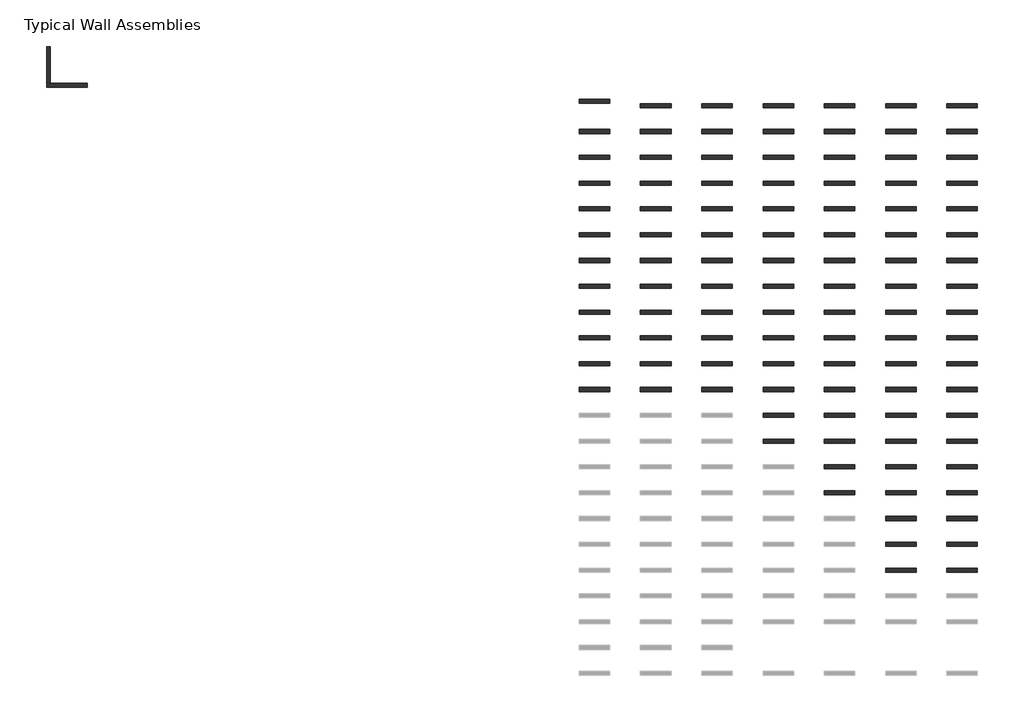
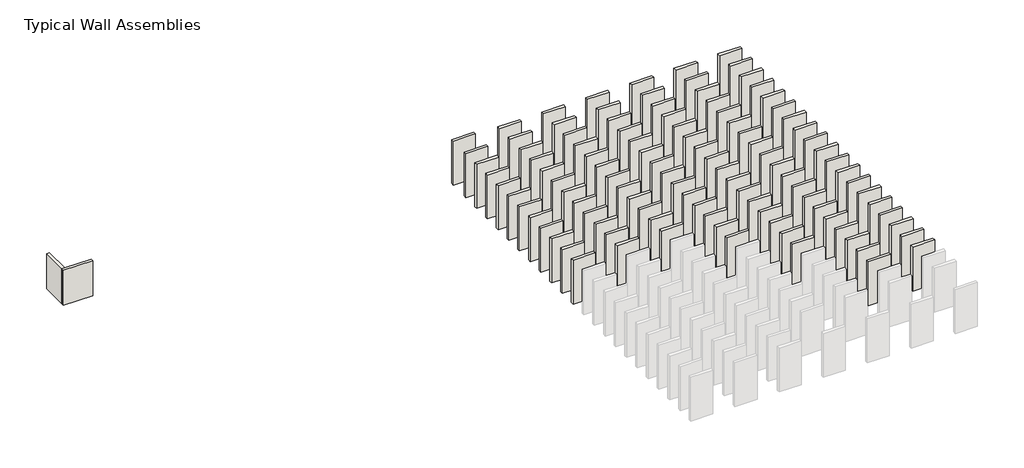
# One storey, part 2 of 2: 106 walls.
"""IFC4 building model written with IfcOpenShell, lengths in millimetres."""

from ifc_helpers import new_model, si_unit, frame, origin, place, context, project, spatial, polyline, outline, extrude, faceted_brep, element, save

model = new_model("IFC4")

# Units and contexts
model_context = context("Model", 3, world=origin())
ifc_project = project(units=[si_unit("LENGTHUNIT", "METRE", prefix="MILLI")], contexts=[model_context])

# Site, building, storey
site = spatial("IfcSite", under=ifc_project)
building = spatial("IfcBuilding", under=site)
storey = spatial("IfcBuildingStorey", under=building, Name="Typical Wall Assemblies", Elevation=6096.0)

# Walls
placement = place(None, origin())
element("IfcWall", 1, ObjectType="Resysta - Cladding-2-Channel-2 Channel_3/4inx2.75in_Aged-Teak", at=placement, inside=storey, context=model_context, shape_type="SweptSolid", body=[
    extrude(outline(polyline([(-19450.9165719, 14659.6846046), (-20898.7250935, 14659.6846046), (-20898.7250935, 14851.7721078), (-19450.9165719, 14851.7721078), (-19450.9165719, 14659.6846046)])), frame((0.0, 0.0, 6096.0), z_axis=(0.0, 0.0, 1.0), x_axis=(1.0, 0.0, 0.0)), (0.0, 0.0, 1.0), 3048.0),
])
element("IfcWall", 2, ObjectType="Resysta - Cladding-2-Channel-2 Channel_3/4inx2.75in_Anthrazit", at=placement, inside=storey, context=model_context, shape_type="SweptSolid", body=[
    extrude(outline(polyline([(-16555.2995286, 14443.3769656), (-18003.1080502, 14443.3769656), (-18003.1080502, 14635.4644687), (-16555.2995286, 14635.4644687), (-16555.2995286, 14443.3769656)])), frame((0.0, 0.0, 6096.0), z_axis=(0.0, 0.0, 1.0), x_axis=(1.0, 0.0, 0.0)), (0.0, 0.0, 1.0), 3048.0),
])
element("IfcWall", 3, ObjectType="Resysta - Cladding-2-Channel-2 Channel_3/4inx2.75in_Apple-Green", at=placement, inside=storey, context=model_context, shape_type="SweptSolid", body=[
    extrude(outline(polyline([(-13659.6824853, 14443.3769656), (-15107.4910069, 14443.3769656), (-15107.4910069, 14635.4644687), (-13659.6824853, 14635.4644687), (-13659.6824853, 14443.3769656)])), frame((0.0, 0.0, 6096.0), z_axis=(0.0, 0.0, 1.0), x_axis=(1.0, 0.0, 0.0)), (0.0, 0.0, 1.0), 3048.0),
])
element("IfcWall", 4, ObjectType="Resysta - Cladding-2-Channel-2 Channel_3/4inx2.75in_Black", at=placement, inside=storey, context=model_context, shape_type="SweptSolid", body=[
    extrude(outline(polyline([(-10764.065442, 14443.3769656), (-12211.8739636, 14443.3769656), (-12211.8739636, 14635.4644687), (-10764.065442, 14635.4644687), (-10764.065442, 14443.3769656)])), frame((0.0, 0.0, 6096.0), z_axis=(0.0, 0.0, 1.0), x_axis=(1.0, 0.0, 0.0)), (0.0, 0.0, 1.0), 3048.0),
])
element("IfcWall", 5, ObjectType="Resysta - Cladding-2-Channel-2 Channel_3/4inx2.75in_Blue", at=placement, inside=storey, context=model_context, shape_type="SweptSolid", body=[
    extrude(outline(polyline([(-7868.4483987, 14443.3769656), (-9316.2569203, 14443.3769656), (-9316.2569203, 14635.4644687), (-7868.4483987, 14635.4644687), (-7868.4483987, 14443.3769656)])), frame((0.0, 0.0, 6096.0), z_axis=(0.0, 0.0, 1.0), x_axis=(1.0, 0.0, 0.0)), (0.0, 0.0, 1.0), 3048.0),
])
element("IfcWall", 6, ObjectType="Resysta - Cladding-2-Channel-2 Channel_3/4inx2.75in_Bright-Red", at=placement, inside=storey, context=model_context, shape_type="SweptSolid", body=[
    extrude(outline(polyline([(-4972.8313554, 14443.3769656), (-6420.639877, 14443.3769656), (-6420.639877, 14635.4644687), (-4972.8313554, 14635.4644687), (-4972.8313554, 14443.3769656)])), frame((0.0, 0.0, 6096.0), z_axis=(0.0, 0.0, 1.0), x_axis=(1.0, 0.0, 0.0)), (0.0, 0.0, 1.0), 3048.0),
])
element("IfcWall", 7, ObjectType="Resysta - Cladding-2-Channel-2 Channel_3/4inx2.75in_Burma", at=placement, inside=storey, context=model_context, shape_type="SweptSolid", body=[
    extrude(outline(polyline([(-2077.2143121, 14443.3769656), (-3525.0228337, 14443.3769656), (-3525.0228337, 14635.4644687), (-2077.2143121, 14635.4644687), (-2077.2143121, 14443.3769656)])), frame((0.0, 0.0, 6096.0), z_axis=(0.0, 0.0, 1.0), x_axis=(1.0, 0.0, 0.0)), (0.0, 0.0, 1.0), 3048.0),
])
element("IfcWall", 8, ObjectType="Resysta - Cladding-2-Channel-2 Channel_3/4inx2.75in_Cape-Cod", at=placement, inside=storey, context=model_context, shape_type="SweptSolid", body=[
    extrude(outline(polyline([(-19450.9165719, 13224.1769656), (-20898.7250935, 13224.1769656), (-20898.7250935, 13416.2644687), (-19450.9165719, 13416.2644687), (-19450.9165719, 13224.1769656)])), frame((0.0, 0.0, 6096.0), z_axis=(0.0, 0.0, 1.0), x_axis=(1.0, 0.0, 0.0)), (0.0, 0.0, 1.0), 3048.0),
])
element("IfcWall", 9, ObjectType="Resysta - Cladding-2-Channel-2 Channel_3/4inx2.75in_Concrete-Grey", at=placement, inside=storey, context=model_context, shape_type="SweptSolid", body=[
    extrude(outline(polyline([(-16555.2995286, 13224.1769656), (-18003.1080502, 13224.1769656), (-18003.1080502, 13416.2644687), (-16555.2995286, 13416.2644687), (-16555.2995286, 13224.1769656)])), frame((0.0, 0.0, 6096.0), z_axis=(0.0, 0.0, 1.0), x_axis=(1.0, 0.0, 0.0)), (0.0, 0.0, 1.0), 3048.0),
])
element("IfcWall", 10, ObjectType="Resysta - Cladding-2-Channel-2 Channel_3/4inx2.75in_Dark-Burma", at=placement, inside=storey, context=model_context, shape_type="SweptSolid", body=[
    extrude(outline(polyline([(-13659.6824853, 13224.1769656), (-15107.4910069, 13224.1769656), (-15107.4910069, 13416.2644687), (-13659.6824853, 13416.2644687), (-13659.6824853, 13224.1769656)])), frame((0.0, 0.0, 6096.0), z_axis=(0.0, 0.0, 1.0), x_axis=(1.0, 0.0, 0.0)), (0.0, 0.0, 1.0), 3048.0),
])
element("IfcWall", 11, ObjectType="Resysta - Cladding-2-Channel-2 Channel_3/4inx2.75in_Dark-Grey", at=placement, inside=storey, context=model_context, shape_type="SweptSolid", body=[
    extrude(outline(polyline([(-10764.065442, 13224.1769656), (-12211.8739636, 13224.1769656), (-12211.8739636, 13416.2644687), (-10764.065442, 13416.2644687), (-10764.065442, 13224.1769656)])), frame((0.0, 0.0, 6096.0), z_axis=(0.0, 0.0, 1.0), x_axis=(1.0, 0.0, 0.0)), (0.0, 0.0, 1.0), 3048.0),
])
element("IfcWall", 12, ObjectType="Resysta - Cladding-2-Channel-2 Channel_3/4inx2.75in_Dark-Siam", at=placement, inside=storey, context=model_context, shape_type="SweptSolid", body=[
    extrude(outline(polyline([(-7868.4483987, 13224.1769656), (-9316.2569203, 13224.1769656), (-9316.2569203, 13416.2644687), (-7868.4483987, 13416.2644687), (-7868.4483987, 13224.1769656)])), frame((0.0, 0.0, 6096.0), z_axis=(0.0, 0.0, 1.0), x_axis=(1.0, 0.0, 0.0)), (0.0, 0.0, 1.0), 3048.0),
])
element("IfcWall", 13, ObjectType="Resysta - Cladding-2-Channel-2 Channel_3/4inx2.75in_Dark-Taupe", at=placement, inside=storey, context=model_context, shape_type="SweptSolid", body=[
    extrude(outline(polyline([(-4972.8313554, 13224.1769656), (-6420.639877, 13224.1769656), (-6420.639877, 13416.2644687), (-4972.8313554, 13416.2644687), (-4972.8313554, 13224.1769656)])), frame((0.0, 0.0, 6096.0), z_axis=(0.0, 0.0, 1.0), x_axis=(1.0, 0.0, 0.0)), (0.0, 0.0, 1.0), 3048.0),
])
element("IfcWall", 14, ObjectType="Resysta - Cladding-2-Channel-2 Channel_3/4inx2.75in_Green/Blue", at=placement, inside=storey, context=model_context, shape_type="SweptSolid", body=[
    extrude(outline(polyline([(-2077.2143121, 13224.1769656), (-3525.0228337, 13224.1769656), (-3525.0228337, 13416.2644687), (-2077.2143121, 13416.2644687), (-2077.2143121, 13224.1769656)])), frame((0.0, 0.0, 6096.0), z_axis=(0.0, 0.0, 1.0), x_axis=(1.0, 0.0, 0.0)), (0.0, 0.0, 1.0), 3048.0),
])
element("IfcWall", 15, ObjectType="Resysta - Cladding-2-Channel-2 Channel_3/4inx2.75in_Java-Teak", at=placement, inside=storey, context=model_context, shape_type="SweptSolid", body=[
    extrude(outline(polyline([(-19450.9165719, 12004.9769656), (-20898.7250935, 12004.9769656), (-20898.7250935, 12197.0644687), (-19450.9165719, 12197.0644687), (-19450.9165719, 12004.9769656)])), frame((0.0, 0.0, 6096.0), z_axis=(0.0, 0.0, 1.0), x_axis=(1.0, 0.0, 0.0)), (0.0, 0.0, 1.0), 3048.0),
])
element("IfcWall", 16, ObjectType="Resysta - Cladding-2-Channel-2 Channel_3/4inx2.75in_Lavender", at=placement, inside=storey, context=model_context, shape_type="SweptSolid", body=[
    extrude(outline(polyline([(-16555.2995286, 12004.9769656), (-18003.1080502, 12004.9769656), (-18003.1080502, 12197.0644687), (-16555.2995286, 12197.0644687), (-16555.2995286, 12004.9769656)])), frame((0.0, 0.0, 6096.0), z_axis=(0.0, 0.0, 1.0), x_axis=(1.0, 0.0, 0.0)), (0.0, 0.0, 1.0), 3048.0),
])
element("IfcWall", 17, ObjectType="Resysta - Cladding-2-Channel-2 Channel_3/4inx2.75in_Light-Taupe", at=placement, inside=storey, context=model_context, shape_type="SweptSolid", body=[
    extrude(outline(polyline([(-13659.6824853, 12004.9769656), (-15107.4910069, 12004.9769656), (-15107.4910069, 12197.0644687), (-13659.6824853, 12197.0644687), (-13659.6824853, 12004.9769656)])), frame((0.0, 0.0, 6096.0), z_axis=(0.0, 0.0, 1.0), x_axis=(1.0, 0.0, 0.0)), (0.0, 0.0, 1.0), 3048.0),
])
element("IfcWall", 18, ObjectType="Resysta - Cladding-2-Channel-2 Channel_3/4inx2.75in_Mahogany", at=placement, inside=storey, context=model_context, shape_type="SweptSolid", body=[
    extrude(outline(polyline([(-10764.065442, 12004.9769656), (-12211.8739636, 12004.9769656), (-12211.8739636, 12197.0644687), (-10764.065442, 12197.0644687), (-10764.065442, 12004.9769656)])), frame((0.0, 0.0, 6096.0), z_axis=(0.0, 0.0, 1.0), x_axis=(1.0, 0.0, 0.0)), (0.0, 0.0, 1.0), 3048.0),
])
element("IfcWall", 19, ObjectType="Resysta - Cladding-2-Channel-2 Channel_3/4inx2.75in_Moss-Green", at=placement, inside=storey, context=model_context, shape_type="SweptSolid", body=[
    extrude(outline(polyline([(-7868.4483987, 12004.9769656), (-9316.2569203, 12004.9769656), (-9316.2569203, 12197.0644687), (-7868.4483987, 12197.0644687), (-7868.4483987, 12004.9769656)])), frame((0.0, 0.0, 6096.0), z_axis=(0.0, 0.0, 1.0), x_axis=(1.0, 0.0, 0.0)), (0.0, 0.0, 1.0), 3048.0),
])
element("IfcWall", 20, ObjectType="Resysta - Cladding-2-Channel-2 Channel_3/4inx2.75in_Mustard-Green", at=placement, inside=storey, context=model_context, shape_type="SweptSolid", body=[
    extrude(outline(polyline([(-4972.8313554, 12004.9769656), (-6420.639877, 12004.9769656), (-6420.639877, 12197.0644687), (-4972.8313554, 12197.0644687), (-4972.8313554, 12004.9769656)])), frame((0.0, 0.0, 6096.0), z_axis=(0.0, 0.0, 1.0), x_axis=(1.0, 0.0, 0.0)), (0.0, 0.0, 1.0), 3048.0),
])
element("IfcWall", 21, ObjectType="Resysta - Cladding-2-Channel-2 Channel_3/4inx2.75in_Pale-Golden", at=placement, inside=storey, context=model_context, shape_type="SweptSolid", body=[
    extrude(outline(polyline([(-2077.2143121, 12004.9769656), (-3525.0228337, 12004.9769656), (-3525.0228337, 12197.0644687), (-2077.2143121, 12197.0644687), (-2077.2143121, 12004.9769656)])), frame((0.0, 0.0, 6096.0), z_axis=(0.0, 0.0, 1.0), x_axis=(1.0, 0.0, 0.0)), (0.0, 0.0, 1.0), 3048.0),
])
element("IfcWall", 22, ObjectType="Resysta - Cladding-2-Channel-2 Channel_3/4inx2.75in_Palisander", at=placement, inside=storey, context=model_context, shape_type="SweptSolid", body=[
    extrude(outline(polyline([(-19450.9165719, 10785.7769656), (-20898.7250935, 10785.7769656), (-20898.7250935, 10977.8644687), (-19450.9165719, 10977.8644687), (-19450.9165719, 10785.7769656)])), frame((0.0, 0.0, 6096.0), z_axis=(0.0, 0.0, 1.0), x_axis=(1.0, 0.0, 0.0)), (0.0, 0.0, 1.0), 3048.0),
])
element("IfcWall", 23, ObjectType="Resysta - Cladding-2-Channel-2 Channel_3/4inx2.75in_Red", at=placement, inside=storey, context=model_context, shape_type="SweptSolid", body=[
    extrude(outline(polyline([(-16555.2995286, 10785.7769656), (-18003.1080502, 10785.7769656), (-18003.1080502, 10977.8644687), (-16555.2995286, 10977.8644687), (-16555.2995286, 10785.7769656)])), frame((0.0, 0.0, 6096.0), z_axis=(0.0, 0.0, 1.0), x_axis=(1.0, 0.0, 0.0)), (0.0, 0.0, 1.0), 3048.0),
])
element("IfcWall", 24, ObjectType="Resysta - Cladding-2-Channel-2 Channel_3/4inx2.75in_Rust", at=placement, inside=storey, context=model_context, shape_type="SweptSolid", body=[
    extrude(outline(polyline([(-13659.6824853, 10785.7769656), (-15107.4910069, 10785.7769656), (-15107.4910069, 10977.8644687), (-13659.6824853, 10977.8644687), (-13659.6824853, 10785.7769656)])), frame((0.0, 0.0, 6096.0), z_axis=(0.0, 0.0, 1.0), x_axis=(1.0, 0.0, 0.0)), (0.0, 0.0, 1.0), 3048.0),
])
element("IfcWall", 25, ObjectType="Resysta - Cladding-2-Channel-2 Channel_3/4inx2.75in_Sage", at=placement, inside=storey, context=model_context, shape_type="SweptSolid", body=[
    extrude(outline(polyline([(-10764.065442, 10785.7769656), (-12211.8739636, 10785.7769656), (-12211.8739636, 10977.8644687), (-10764.065442, 10977.8644687), (-10764.065442, 10785.7769656)])), frame((0.0, 0.0, 6096.0), z_axis=(0.0, 0.0, 1.0), x_axis=(1.0, 0.0, 0.0)), (0.0, 0.0, 1.0), 3048.0),
])
element("IfcWall", 26, ObjectType="Resysta - Cladding-2-Channel-2 Channel_3/4inx2.75in_Siam", at=placement, inside=storey, context=model_context, shape_type="SweptSolid", body=[
    extrude(outline(polyline([(-7868.4483987, 10785.7769656), (-9316.2569203, 10785.7769656), (-9316.2569203, 10977.8644687), (-7868.4483987, 10977.8644687), (-7868.4483987, 10785.7769656)])), frame((0.0, 0.0, 6096.0), z_axis=(0.0, 0.0, 1.0), x_axis=(1.0, 0.0, 0.0)), (0.0, 0.0, 1.0), 3048.0),
])
element("IfcWall", 27, ObjectType="Resysta - Cladding-2-Channel-2 Channel_3/4inx2.75in_Teracotta", at=placement, inside=storey, context=model_context, shape_type="SweptSolid", body=[
    extrude(outline(polyline([(-4972.8313554, 10785.7769656), (-6420.639877, 10785.7769656), (-6420.639877, 10977.8644687), (-4972.8313554, 10977.8644687), (-4972.8313554, 10785.7769656)])), frame((0.0, 0.0, 6096.0), z_axis=(0.0, 0.0, 1.0), x_axis=(1.0, 0.0, 0.0)), (0.0, 0.0, 1.0), 3048.0),
])
element("IfcWall", 28, ObjectType="Resysta - Cladding-2-Channel-2 Channel_3/4inx2.75in_Walnut", at=placement, inside=storey, context=model_context, shape_type="SweptSolid", body=[
    extrude(outline(polyline([(-2077.2143121, 10785.7769656), (-3525.0228337, 10785.7769656), (-3525.0228337, 10977.8644687), (-2077.2143121, 10977.8644687), (-2077.2143121, 10785.7769656)])), frame((0.0, 0.0, 6096.0), z_axis=(0.0, 0.0, 1.0), x_axis=(1.0, 0.0, 0.0)), (0.0, 0.0, 1.0), 3048.0),
])
element("IfcWall", 29, ObjectType="Resysta - Cladding-2-Channel-2 Channel_3/4inx2.75in_White", at=placement, inside=storey, context=model_context, shape_type="SweptSolid", body=[
    extrude(outline(polyline([(-19450.9165719, 9566.5769656), (-20898.7250935, 9566.5769656), (-20898.7250935, 9758.6644687), (-19450.9165719, 9758.6644687), (-19450.9165719, 9566.5769656)])), frame((0.0, 0.0, 6096.0), z_axis=(0.0, 0.0, 1.0), x_axis=(1.0, 0.0, 0.0)), (0.0, 0.0, 1.0), 3048.0),
])
element("IfcWall", 30, ObjectType="Resysta - Cladding-2-Channel-2 Channel_3/4inx2.75in_Yellow-Teak", at=placement, inside=storey, context=model_context, shape_type="SweptSolid", body=[
    extrude(outline(polyline([(-16555.2995286, 9566.5769656), (-18003.1080502, 9566.5769656), (-18003.1080502, 9758.6644687), (-16555.2995286, 9758.6644687), (-16555.2995286, 9566.5769656)])), frame((0.0, 0.0, 6096.0), z_axis=(0.0, 0.0, 1.0), x_axis=(1.0, 0.0, 0.0)), (0.0, 0.0, 1.0), 3048.0),
])
element("IfcWall", 31, ObjectType="Resysta - Cladding-2-Channel-Thin_3/4inx2.75in_Aged-Teak", at=placement, inside=storey, context=model_context, shape_type="SweptSolid", body=[
    extrude(outline(polyline([(-13659.6824853, 9566.5769656), (-15107.4910069, 9566.5769656), (-15107.4910069, 9758.6644687), (-13659.6824853, 9758.6644687), (-13659.6824853, 9566.5769656)])), frame((0.0, 0.0, 6096.0), z_axis=(0.0, 0.0, 1.0), x_axis=(1.0, 0.0, 0.0)), (0.0, 0.0, 1.0), 3048.0),
])
element("IfcWall", 32, ObjectType="Resysta - Cladding-2-Channel-Thin_3/4inx2.75in_Anthrazit", at=placement, inside=storey, context=model_context, shape_type="SweptSolid", body=[
    extrude(outline(polyline([(-10764.065442, 9566.5769656), (-12211.8739636, 9566.5769656), (-12211.8739636, 9758.6644687), (-10764.065442, 9758.6644687), (-10764.065442, 9566.5769656)])), frame((0.0, 0.0, 6096.0), z_axis=(0.0, 0.0, 1.0), x_axis=(1.0, 0.0, 0.0)), (0.0, 0.0, 1.0), 3048.0),
])
element("IfcWall", 33, ObjectType="Resysta - Cladding-2-Channel-Thin_3/4inx2.75in_Apple-Green", at=placement, inside=storey, context=model_context, shape_type="SweptSolid", body=[
    extrude(outline(polyline([(-7868.4483987, 9566.5769656), (-9316.2569203, 9566.5769656), (-9316.2569203, 9758.6644687), (-7868.4483987, 9758.6644687), (-7868.4483987, 9566.5769656)])), frame((0.0, 0.0, 6096.0), z_axis=(0.0, 0.0, 1.0), x_axis=(1.0, 0.0, 0.0)), (0.0, 0.0, 1.0), 3048.0),
])
element("IfcWall", 34, ObjectType="Resysta - Cladding-2-Channel-Thin_3/4inx2.75in_Black", at=placement, inside=storey, context=model_context, shape_type="SweptSolid", body=[
    extrude(outline(polyline([(-4972.8313554, 9566.5769656), (-6420.639877, 9566.5769656), (-6420.639877, 9758.6644687), (-4972.8313554, 9758.6644687), (-4972.8313554, 9566.5769656)])), frame((0.0, 0.0, 6096.0), z_axis=(0.0, 0.0, 1.0), x_axis=(1.0, 0.0, 0.0)), (0.0, 0.0, 1.0), 3048.0),
])
element("IfcWall", 35, ObjectType="Resysta - Cladding-2-Channel-Thin_3/4inx2.75in_Blue", at=placement, inside=storey, context=model_context, shape_type="SweptSolid", body=[
    extrude(outline(polyline([(-2077.2143121, 9566.5769656), (-3525.0228337, 9566.5769656), (-3525.0228337, 9758.6644687), (-2077.2143121, 9758.6644687), (-2077.2143121, 9566.5769656)])), frame((0.0, 0.0, 6096.0), z_axis=(0.0, 0.0, 1.0), x_axis=(1.0, 0.0, 0.0)), (0.0, 0.0, 1.0), 3048.0),
])
element("IfcWall", 36, ObjectType="Resysta - Cladding-2-Channel-Thin_3/4inx2.75in_Bright-Red", at=placement, inside=storey, context=model_context, shape_type="SweptSolid", body=[
    extrude(outline(polyline([(-19450.9165719, 8347.3769656), (-20898.7250935, 8347.3769656), (-20898.7250935, 8539.4644687), (-19450.9165719, 8539.4644687), (-19450.9165719, 8347.3769656)])), frame((0.0, 0.0, 6096.0), z_axis=(0.0, 0.0, 1.0), x_axis=(1.0, 0.0, 0.0)), (0.0, 0.0, 1.0), 3048.0),
])
element("IfcWall", 37, ObjectType="Resysta - Cladding-2-Channel-Thin_3/4inx2.75in_Burma", at=placement, inside=storey, context=model_context, shape_type="SweptSolid", body=[
    extrude(outline(polyline([(-16555.2995286, 8347.3769656), (-18003.1080502, 8347.3769656), (-18003.1080502, 8539.4644687), (-16555.2995286, 8539.4644687), (-16555.2995286, 8347.3769656)])), frame((0.0, 0.0, 6096.0), z_axis=(0.0, 0.0, 1.0), x_axis=(1.0, 0.0, 0.0)), (0.0, 0.0, 1.0), 3048.0),
])
element("IfcWall", 38, ObjectType="Resysta - Cladding-2-Channel-Thin_3/4inx2.75in_Cape-Cod", at=placement, inside=storey, context=model_context, shape_type="SweptSolid", body=[
    extrude(outline(polyline([(-13659.6824853, 8347.3769656), (-15107.4910069, 8347.3769656), (-15107.4910069, 8539.4644687), (-13659.6824853, 8539.4644687), (-13659.6824853, 8347.3769656)])), frame((0.0, 0.0, 6096.0), z_axis=(0.0, 0.0, 1.0), x_axis=(1.0, 0.0, 0.0)), (0.0, 0.0, 1.0), 3048.0),
])
element("IfcWall", 39, ObjectType="Resysta - Cladding-2-Channel-Thin_3/4inx2.75in_Concrete-Grey", at=placement, inside=storey, context=model_context, shape_type="SweptSolid", body=[
    extrude(outline(polyline([(-10764.065442, 8347.3769656), (-12211.8739636, 8347.3769656), (-12211.8739636, 8539.4644687), (-10764.065442, 8539.4644687), (-10764.065442, 8347.3769656)])), frame((0.0, 0.0, 6096.0), z_axis=(0.0, 0.0, 1.0), x_axis=(1.0, 0.0, 0.0)), (0.0, 0.0, 1.0), 3048.0),
])
element("IfcWall", 40, ObjectType="Resysta - Cladding-2-Channel-Thin_3/4inx2.75in_Dark-Burma", at=placement, inside=storey, context=model_context, shape_type="SweptSolid", body=[
    extrude(outline(polyline([(-7868.4483987, 8347.3769656), (-9316.2569203, 8347.3769656), (-9316.2569203, 8539.4644687), (-7868.4483987, 8539.4644687), (-7868.4483987, 8347.3769656)])), frame((0.0, 0.0, 6096.0), z_axis=(0.0, 0.0, 1.0), x_axis=(1.0, 0.0, 0.0)), (0.0, 0.0, 1.0), 3048.0),
])
element("IfcWall", 41, ObjectType="Resysta - Cladding-2-Channel-Thin_3/4inx2.75in_Dark-Grey", at=placement, inside=storey, context=model_context, shape_type="SweptSolid", body=[
    extrude(outline(polyline([(-4972.8313554, 8347.3769656), (-6420.639877, 8347.3769656), (-6420.639877, 8539.4644687), (-4972.8313554, 8539.4644687), (-4972.8313554, 8347.3769656)])), frame((0.0, 0.0, 6096.0), z_axis=(0.0, 0.0, 1.0), x_axis=(1.0, 0.0, 0.0)), (0.0, 0.0, 1.0), 3048.0),
])
element("IfcWall", 42, ObjectType="Resysta - Cladding-2-Channel-Thin_3/4inx2.75in_Dark-Siam", at=placement, inside=storey, context=model_context, shape_type="SweptSolid", body=[
    extrude(outline(polyline([(-2077.2143121, 8347.3769656), (-3525.0228337, 8347.3769656), (-3525.0228337, 8539.4644687), (-2077.2143121, 8539.4644687), (-2077.2143121, 8347.3769656)])), frame((0.0, 0.0, 6096.0), z_axis=(0.0, 0.0, 1.0), x_axis=(1.0, 0.0, 0.0)), (0.0, 0.0, 1.0), 3048.0),
])
element("IfcWall", 43, ObjectType="Resysta - Cladding-2-Channel-Thin_3/4inx2.75in_Dark-Taupe", at=placement, inside=storey, context=model_context, shape_type="SweptSolid", body=[
    extrude(outline(polyline([(-19450.9165719, 7128.1769656), (-20898.7250935, 7128.1769656), (-20898.7250935, 7320.2644687), (-19450.9165719, 7320.2644687), (-19450.9165719, 7128.1769656)])), frame((0.0, 0.0, 6096.0), z_axis=(0.0, 0.0, 1.0), x_axis=(1.0, 0.0, 0.0)), (0.0, 0.0, 1.0), 3048.0),
])
element("IfcWall", 44, ObjectType="Resysta - Cladding-2-Channel-Thin_3/4inx2.75in_Green/Blue", at=placement, inside=storey, context=model_context, shape_type="SweptSolid", body=[
    extrude(outline(polyline([(-16555.2995286, 7128.1769656), (-18003.1080502, 7128.1769656), (-18003.1080502, 7320.2644687), (-16555.2995286, 7320.2644687), (-16555.2995286, 7128.1769656)])), frame((0.0, 0.0, 6096.0), z_axis=(0.0, 0.0, 1.0), x_axis=(1.0, 0.0, 0.0)), (0.0, 0.0, 1.0), 3048.0),
])
element("IfcWall", 45, ObjectType="Resysta - Cladding-2-Channel-Thin_3/4inx2.75in_Java-Teak", at=placement, inside=storey, context=model_context, shape_type="SweptSolid", body=[
    extrude(outline(polyline([(-13659.6824853, 7128.1769656), (-15107.4910069, 7128.1769656), (-15107.4910069, 7320.2644687), (-13659.6824853, 7320.2644687), (-13659.6824853, 7128.1769656)])), frame((0.0, 0.0, 6096.0), z_axis=(0.0, 0.0, 1.0), x_axis=(1.0, 0.0, 0.0)), (0.0, 0.0, 1.0), 3048.0),
])
element("IfcWall", 46, ObjectType="Resysta - Cladding-2-Channel-Thin_3/4inx2.75in_Lavender", at=placement, inside=storey, context=model_context, shape_type="SweptSolid", body=[
    extrude(outline(polyline([(-10764.065442, 7128.1769656), (-12211.8739636, 7128.1769656), (-12211.8739636, 7320.2644687), (-10764.065442, 7320.2644687), (-10764.065442, 7128.1769656)])), frame((0.0, 0.0, 6096.0), z_axis=(0.0, 0.0, 1.0), x_axis=(1.0, 0.0, 0.0)), (0.0, 0.0, 1.0), 3048.0),
])
element("IfcWall", 47, ObjectType="Resysta - Cladding-2-Channel-Thin_3/4inx2.75in_Light-Taupe", at=placement, inside=storey, context=model_context, shape_type="SweptSolid", body=[
    extrude(outline(polyline([(-7868.4483987, 7128.1769656), (-9316.2569203, 7128.1769656), (-9316.2569203, 7320.2644687), (-7868.4483987, 7320.2644687), (-7868.4483987, 7128.1769656)])), frame((0.0, 0.0, 6096.0), z_axis=(0.0, 0.0, 1.0), x_axis=(1.0, 0.0, 0.0)), (0.0, 0.0, 1.0), 3048.0),
])
element("IfcWall", 48, ObjectType="Resysta - Cladding-2-Channel-Thin_3/4inx2.75in_Mahogany", at=placement, inside=storey, context=model_context, shape_type="SweptSolid", body=[
    extrude(outline(polyline([(-4972.8313554, 7128.1769656), (-6420.639877, 7128.1769656), (-6420.639877, 7320.2644687), (-4972.8313554, 7320.2644687), (-4972.8313554, 7128.1769656)])), frame((0.0, 0.0, 6096.0), z_axis=(0.0, 0.0, 1.0), x_axis=(1.0, 0.0, 0.0)), (0.0, 0.0, 1.0), 3048.0),
])
element("IfcWall", 49, ObjectType="Resysta - Cladding-2-Channel-Thin_3/4inx2.75in_Moss-Green", at=placement, inside=storey, context=model_context, shape_type="SweptSolid", body=[
    extrude(outline(polyline([(-2077.2143121, 7128.1769656), (-3525.0228337, 7128.1769656), (-3525.0228337, 7320.2644687), (-2077.2143121, 7320.2644687), (-2077.2143121, 7128.1769656)])), frame((0.0, 0.0, 6096.0), z_axis=(0.0, 0.0, 1.0), x_axis=(1.0, 0.0, 0.0)), (0.0, 0.0, 1.0), 3048.0),
])
element("IfcWall", 50, ObjectType="Resysta - Cladding-2-Channel-Thin_3/4inx2.75in_Mustard-Green", at=placement, inside=storey, context=model_context, shape_type="SweptSolid", body=[
    extrude(outline(polyline([(-19450.9165719, 5908.9769656), (-20898.7250935, 5908.9769656), (-20898.7250935, 6101.0644687), (-19450.9165719, 6101.0644687), (-19450.9165719, 5908.9769656)])), frame((0.0, 0.0, 6096.0), z_axis=(0.0, 0.0, 1.0), x_axis=(1.0, 0.0, 0.0)), (0.0, 0.0, 1.0), 3048.0),
])
element("IfcWall", 51, ObjectType="Resysta - Cladding-2-Channel-Thin_3/4inx2.75in_Pale-Golden", at=placement, inside=storey, context=model_context, shape_type="SweptSolid", body=[
    extrude(outline(polyline([(-16555.2995286, 5908.9769656), (-18003.1080502, 5908.9769656), (-18003.1080502, 6101.0644687), (-16555.2995286, 6101.0644687), (-16555.2995286, 5908.9769656)])), frame((0.0, 0.0, 6096.0), z_axis=(0.0, 0.0, 1.0), x_axis=(1.0, 0.0, 0.0)), (0.0, 0.0, 1.0), 3048.0),
])
element("IfcWall", 52, ObjectType="Resysta - Cladding-2-Channel-Thin_3/4inx2.75in_Palisander", at=placement, inside=storey, context=model_context, shape_type="SweptSolid", body=[
    extrude(outline(polyline([(-13659.6824853, 5908.9769656), (-15107.4910069, 5908.9769656), (-15107.4910069, 6101.0644687), (-13659.6824853, 6101.0644687), (-13659.6824853, 5908.9769656)])), frame((0.0, 0.0, 6096.0), z_axis=(0.0, 0.0, 1.0), x_axis=(1.0, 0.0, 0.0)), (0.0, 0.0, 1.0), 3048.0),
])
element("IfcWall", 53, ObjectType="Resysta - Cladding-2-Channel-Thin_3/4inx2.75in_Red", at=placement, inside=storey, context=model_context, shape_type="SweptSolid", body=[
    extrude(outline(polyline([(-10764.065442, 5908.9769656), (-12211.8739636, 5908.9769656), (-12211.8739636, 6101.0644687), (-10764.065442, 6101.0644687), (-10764.065442, 5908.9769656)])), frame((0.0, 0.0, 6096.0), z_axis=(0.0, 0.0, 1.0), x_axis=(1.0, 0.0, 0.0)), (0.0, 0.0, 1.0), 3048.0),
])
element("IfcWall", 54, ObjectType="Resysta - Cladding-2-Channel-Thin_3/4inx2.75in_Rust", at=placement, inside=storey, context=model_context, shape_type="SweptSolid", body=[
    extrude(outline(polyline([(-7868.4483987, 5908.9769656), (-9316.2569203, 5908.9769656), (-9316.2569203, 6101.0644687), (-7868.4483987, 6101.0644687), (-7868.4483987, 5908.9769656)])), frame((0.0, 0.0, 6096.0), z_axis=(0.0, 0.0, 1.0), x_axis=(1.0, 0.0, 0.0)), (0.0, 0.0, 1.0), 3048.0),
])
element("IfcWall", 55, ObjectType="Resysta - Cladding-2-Channel-Thin_3/4inx2.75in_Sage", at=placement, inside=storey, context=model_context, shape_type="SweptSolid", body=[
    extrude(outline(polyline([(-4972.8313554, 5908.9769656), (-6420.639877, 5908.9769656), (-6420.639877, 6101.0644687), (-4972.8313554, 6101.0644687), (-4972.8313554, 5908.9769656)])), frame((0.0, 0.0, 6096.0), z_axis=(0.0, 0.0, 1.0), x_axis=(1.0, 0.0, 0.0)), (0.0, 0.0, 1.0), 3048.0),
])
element("IfcWall", 56, ObjectType="Resysta - Cladding-2-Channel-Thin_3/4inx2.75in_Siam", at=placement, inside=storey, context=model_context, shape_type="SweptSolid", body=[
    extrude(outline(polyline([(-2077.2143121, 5908.9769656), (-3525.0228337, 5908.9769656), (-3525.0228337, 6101.0644687), (-2077.2143121, 6101.0644687), (-2077.2143121, 5908.9769656)])), frame((0.0, 0.0, 6096.0), z_axis=(0.0, 0.0, 1.0), x_axis=(1.0, 0.0, 0.0)), (0.0, 0.0, 1.0), 3048.0),
])
element("IfcWall", 57, ObjectType="Resysta - Cladding-2-Channel-Thin_3/4inx2.75in_Teracotta", at=placement, inside=storey, context=model_context, shape_type="SweptSolid", body=[
    extrude(outline(polyline([(-19450.9165719, 4689.7769656), (-20898.7250935, 4689.7769656), (-20898.7250935, 4881.8644687), (-19450.9165719, 4881.8644687), (-19450.9165719, 4689.7769656)])), frame((0.0, 0.0, 6096.0), z_axis=(0.0, 0.0, 1.0), x_axis=(1.0, 0.0, 0.0)), (0.0, 0.0, 1.0), 3048.0),
])
element("IfcWall", 58, ObjectType="Resysta - Cladding-2-Channel-Thin_3/4inx2.75in_Walnut", at=placement, inside=storey, context=model_context, shape_type="SweptSolid", body=[
    extrude(outline(polyline([(-16555.2995286, 4689.7769656), (-18003.1080502, 4689.7769656), (-18003.1080502, 4881.8644687), (-16555.2995286, 4881.8644687), (-16555.2995286, 4689.7769656)])), frame((0.0, 0.0, 6096.0), z_axis=(0.0, 0.0, 1.0), x_axis=(1.0, 0.0, 0.0)), (0.0, 0.0, 1.0), 3048.0),
])
element("IfcWall", 59, ObjectType="Resysta - Cladding-2-Channel-Thin_3/4inx2.75in_White", at=placement, inside=storey, context=model_context, shape_type="SweptSolid", body=[
    extrude(outline(polyline([(-13659.6824853, 4689.7769656), (-15107.4910069, 4689.7769656), (-15107.4910069, 4881.8644687), (-13659.6824853, 4881.8644687), (-13659.6824853, 4689.7769656)])), frame((0.0, 0.0, 6096.0), z_axis=(0.0, 0.0, 1.0), x_axis=(1.0, 0.0, 0.0)), (0.0, 0.0, 1.0), 3048.0),
])
element("IfcWall", 60, ObjectType="Resysta - Cladding-2-Channel-Thin_3/4inx2.75in_Yellow-Teak", at=placement, inside=storey, context=model_context, shape_type="SweptSolid", body=[
    extrude(outline(polyline([(-10764.065442, 4689.7769656), (-12211.8739636, 4689.7769656), (-12211.8739636, 4881.8644687), (-10764.065442, 4881.8644687), (-10764.065442, 4689.7769656)])), frame((0.0, 0.0, 6096.0), z_axis=(0.0, 0.0, 1.0), x_axis=(1.0, 0.0, 0.0)), (0.0, 0.0, 1.0), 3048.0),
])
element("IfcWall", 61, ObjectType="Resysta - Cladding-3-Channel-Thin_3/4inx2.75in_Aged-Teak", at=placement, inside=storey, context=model_context, shape_type="SweptSolid", body=[
    extrude(outline(polyline([(-7868.4483987, 4689.7769656), (-9316.2569203, 4689.7769656), (-9316.2569203, 4881.8644687), (-7868.4483987, 4881.8644687), (-7868.4483987, 4689.7769656)])), frame((0.0, 0.0, 6096.0), z_axis=(0.0, 0.0, 1.0), x_axis=(1.0, 0.0, 0.0)), (0.0, 0.0, 1.0), 3048.0),
])
element("IfcWall", 62, ObjectType="Resysta - Cladding-3-Channel-Thin_3/4inx2.75in_Anthrazit", at=placement, inside=storey, context=model_context, shape_type="SweptSolid", body=[
    extrude(outline(polyline([(-4972.8313554, 4689.7769656), (-6420.639877, 4689.7769656), (-6420.639877, 4881.8644687), (-4972.8313554, 4881.8644687), (-4972.8313554, 4689.7769656)])), frame((0.0, 0.0, 6096.0), z_axis=(0.0, 0.0, 1.0), x_axis=(1.0, 0.0, 0.0)), (0.0, 0.0, 1.0), 3048.0),
])
element("IfcWall", 63, ObjectType="Resysta - Cladding-3-Channel-Thin_3/4inx2.75in_Apple-Green", at=placement, inside=storey, context=model_context, shape_type="SweptSolid", body=[
    extrude(outline(polyline([(-2077.2143121, 4689.7769656), (-3525.0228337, 4689.7769656), (-3525.0228337, 4881.8644687), (-2077.2143121, 4881.8644687), (-2077.2143121, 4689.7769656)])), frame((0.0, 0.0, 6096.0), z_axis=(0.0, 0.0, 1.0), x_axis=(1.0, 0.0, 0.0)), (0.0, 0.0, 1.0), 3048.0),
])
element("IfcWall", 64, ObjectType="Resysta - Cladding-3-Channel-Thin_3/4inx2.75in_Black", at=placement, inside=storey, context=model_context, shape_type="SweptSolid", body=[
    extrude(outline(polyline([(-19450.9165719, 3470.5769656), (-20898.7250935, 3470.5769656), (-20898.7250935, 3662.6644687), (-19450.9165719, 3662.6644687), (-19450.9165719, 3470.5769656)])), frame((0.0, 0.0, 6096.0), z_axis=(0.0, 0.0, 1.0), x_axis=(1.0, 0.0, 0.0)), (0.0, 0.0, 1.0), 3048.0),
])
element("IfcWall", 65, ObjectType="Resysta - Cladding-3-Channel-Thin_3/4inx2.75in_Blue", at=placement, inside=storey, context=model_context, shape_type="SweptSolid", body=[
    extrude(outline(polyline([(-16555.2995286, 3470.5769656), (-18003.1080502, 3470.5769656), (-18003.1080502, 3662.6644687), (-16555.2995286, 3662.6644687), (-16555.2995286, 3470.5769656)])), frame((0.0, 0.0, 6096.0), z_axis=(0.0, 0.0, 1.0), x_axis=(1.0, 0.0, 0.0)), (0.0, 0.0, 1.0), 3048.0),
])
element("IfcWall", 66, ObjectType="Resysta - Cladding-3-Channel-Thin_3/4inx2.75in_Bright-Red", at=placement, inside=storey, context=model_context, shape_type="SweptSolid", body=[
    extrude(outline(polyline([(-13659.6824853, 3470.5769656), (-15107.4910069, 3470.5769656), (-15107.4910069, 3662.6644687), (-13659.6824853, 3662.6644687), (-13659.6824853, 3470.5769656)])), frame((0.0, 0.0, 6096.0), z_axis=(0.0, 0.0, 1.0), x_axis=(1.0, 0.0, 0.0)), (0.0, 0.0, 1.0), 3048.0),
])
element("IfcWall", 67, ObjectType="Resysta - Cladding-3-Channel-Thin_3/4inx2.75in_Burma", at=placement, inside=storey, context=model_context, shape_type="SweptSolid", body=[
    extrude(outline(polyline([(-10764.065442, 3470.5769656), (-12211.8739636, 3470.5769656), (-12211.8739636, 3662.6644687), (-10764.065442, 3662.6644687), (-10764.065442, 3470.5769656)])), frame((0.0, 0.0, 6096.0), z_axis=(0.0, 0.0, 1.0), x_axis=(1.0, 0.0, 0.0)), (0.0, 0.0, 1.0), 3048.0),
])
element("IfcWall", 68, ObjectType="Resysta - Cladding-3-Channel-Thin_3/4inx2.75in_Cape-Cod", at=placement, inside=storey, context=model_context, shape_type="SweptSolid", body=[
    extrude(outline(polyline([(-7868.4483987, 3470.5769656), (-9316.2569203, 3470.5769656), (-9316.2569203, 3662.6644687), (-7868.4483987, 3662.6644687), (-7868.4483987, 3470.5769656)])), frame((0.0, 0.0, 6096.0), z_axis=(0.0, 0.0, 1.0), x_axis=(1.0, 0.0, 0.0)), (0.0, 0.0, 1.0), 3048.0),
])
element("IfcWall", 69, ObjectType="Resysta - Cladding-3-Channel-Thin_3/4inx2.75in_Concrete-Grey", at=placement, inside=storey, context=model_context, shape_type="SweptSolid", body=[
    extrude(outline(polyline([(-4972.8313554, 3470.5769656), (-6420.639877, 3470.5769656), (-6420.639877, 3662.6644687), (-4972.8313554, 3662.6644687), (-4972.8313554, 3470.5769656)])), frame((0.0, 0.0, 6096.0), z_axis=(0.0, 0.0, 1.0), x_axis=(1.0, 0.0, 0.0)), (0.0, 0.0, 1.0), 3048.0),
])
element("IfcWall", 70, ObjectType="Resysta - Cladding-3-Channel-Thin_3/4inx2.75in_Dark-Burma", at=placement, inside=storey, context=model_context, shape_type="SweptSolid", body=[
    extrude(outline(polyline([(-2077.2143121, 3470.5769656), (-3525.0228337, 3470.5769656), (-3525.0228337, 3662.6644687), (-2077.2143121, 3662.6644687), (-2077.2143121, 3470.5769656)])), frame((0.0, 0.0, 6096.0), z_axis=(0.0, 0.0, 1.0), x_axis=(1.0, 0.0, 0.0)), (0.0, 0.0, 1.0), 3048.0),
])
element("IfcWall", 71, ObjectType="Resysta - Cladding-3-Channel-Thin_3/4inx2.75in_Dark-Grey", at=placement, inside=storey, context=model_context, shape_type="SweptSolid", body=[
    extrude(outline(polyline([(-19450.9165719, 2251.3769656), (-20898.7250935, 2251.3769656), (-20898.7250935, 2443.4644687), (-19450.9165719, 2443.4644687), (-19450.9165719, 2251.3769656)])), frame((0.0, 0.0, 6096.0), z_axis=(0.0, 0.0, 1.0), x_axis=(1.0, 0.0, 0.0)), (0.0, 0.0, 1.0), 3048.0),
])
element("IfcWall", 72, ObjectType="Resysta - Cladding-3-Channel-Thin_3/4inx2.75in_Dark-Siam", at=placement, inside=storey, context=model_context, shape_type="SweptSolid", body=[
    extrude(outline(polyline([(-16555.2995286, 2251.3769656), (-18003.1080502, 2251.3769656), (-18003.1080502, 2443.4644687), (-16555.2995286, 2443.4644687), (-16555.2995286, 2251.3769656)])), frame((0.0, 0.0, 6096.0), z_axis=(0.0, 0.0, 1.0), x_axis=(1.0, 0.0, 0.0)), (0.0, 0.0, 1.0), 3048.0),
])
element("IfcWall", 73, ObjectType="Resysta - Cladding-3-Channel-Thin_3/4inx2.75in_Dark-Taupe", at=placement, inside=storey, context=model_context, shape_type="SweptSolid", body=[
    extrude(outline(polyline([(-13659.6824853, 2251.3769656), (-15107.4910069, 2251.3769656), (-15107.4910069, 2443.4644687), (-13659.6824853, 2443.4644687), (-13659.6824853, 2251.3769656)])), frame((0.0, 0.0, 6096.0), z_axis=(0.0, 0.0, 1.0), x_axis=(1.0, 0.0, 0.0)), (0.0, 0.0, 1.0), 3048.0),
])
element("IfcWall", 74, ObjectType="Resysta - Cladding-3-Channel-Thin_3/4inx2.75in_Green/Blue", at=placement, inside=storey, context=model_context, shape_type="SweptSolid", body=[
    extrude(outline(polyline([(-10764.065442, 2251.3769656), (-12211.8739636, 2251.3769656), (-12211.8739636, 2443.4644687), (-10764.065442, 2443.4644687), (-10764.065442, 2251.3769656)])), frame((0.0, 0.0, 6096.0), z_axis=(0.0, 0.0, 1.0), x_axis=(1.0, 0.0, 0.0)), (0.0, 0.0, 1.0), 3048.0),
])
element("IfcWall", 75, ObjectType="Resysta - Cladding-3-Channel-Thin_3/4inx2.75in_Java-Teak", at=placement, inside=storey, context=model_context, shape_type="SweptSolid", body=[
    extrude(outline(polyline([(-7868.4483987, 2251.3769656), (-9316.2569203, 2251.3769656), (-9316.2569203, 2443.4644687), (-7868.4483987, 2443.4644687), (-7868.4483987, 2251.3769656)])), frame((0.0, 0.0, 6096.0), z_axis=(0.0, 0.0, 1.0), x_axis=(1.0, 0.0, 0.0)), (0.0, 0.0, 1.0), 3048.0),
])
element("IfcWall", 76, ObjectType="Resysta - Cladding-3-Channel-Thin_3/4inx2.75in_Lavender", at=placement, inside=storey, context=model_context, shape_type="SweptSolid", body=[
    extrude(outline(polyline([(-4972.8313554, 2251.3769656), (-6420.639877, 2251.3769656), (-6420.639877, 2443.4644687), (-4972.8313554, 2443.4644687), (-4972.8313554, 2251.3769656)])), frame((0.0, 0.0, 6096.0), z_axis=(0.0, 0.0, 1.0), x_axis=(1.0, 0.0, 0.0)), (0.0, 0.0, 1.0), 3048.0),
])
element("IfcWall", 77, ObjectType="Resysta - Cladding-3-Channel-Thin_3/4inx2.75in_Light-Taupe", at=placement, inside=storey, context=model_context, shape_type="SweptSolid", body=[
    extrude(outline(polyline([(-2077.2143121, 2251.3769656), (-3525.0228337, 2251.3769656), (-3525.0228337, 2443.4644687), (-2077.2143121, 2443.4644687), (-2077.2143121, 2251.3769656)])), frame((0.0, 0.0, 6096.0), z_axis=(0.0, 0.0, 1.0), x_axis=(1.0, 0.0, 0.0)), (0.0, 0.0, 1.0), 3048.0),
])
element("IfcWall", 78, ObjectType="Resysta - Cladding-3-Channel-Thin_3/4inx2.75in_Mahogany", at=placement, inside=storey, context=model_context, shape_type="SweptSolid", body=[
    extrude(outline(polyline([(-19450.9165719, 1032.1769656), (-20898.7250935, 1032.1769656), (-20898.7250935, 1224.2644687), (-19450.9165719, 1224.2644687), (-19450.9165719, 1032.1769656)])), frame((0.0, 0.0, 6096.0), z_axis=(0.0, 0.0, 1.0), x_axis=(1.0, 0.0, 0.0)), (0.0, 0.0, 1.0), 3048.0),
])
element("IfcWall", 79, ObjectType="Resysta - Cladding-3-Channel-Thin_3/4inx2.75in_Moss-Green", at=placement, inside=storey, context=model_context, shape_type="SweptSolid", body=[
    extrude(outline(polyline([(-16555.2995286, 1032.1769656), (-18003.1080502, 1032.1769656), (-18003.1080502, 1224.2644687), (-16555.2995286, 1224.2644687), (-16555.2995286, 1032.1769656)])), frame((0.0, 0.0, 6096.0), z_axis=(0.0, 0.0, 1.0), x_axis=(1.0, 0.0, 0.0)), (0.0, 0.0, 1.0), 3048.0),
])
element("IfcWall", 80, ObjectType="Resysta - Cladding-3-Channel-Thin_3/4inx2.75in_Mustard-Green", at=placement, inside=storey, context=model_context, shape_type="SweptSolid", body=[
    extrude(outline(polyline([(-13659.6824853, 1032.1769656), (-15107.4910069, 1032.1769656), (-15107.4910069, 1224.2644687), (-13659.6824853, 1224.2644687), (-13659.6824853, 1032.1769656)])), frame((0.0, 0.0, 6096.0), z_axis=(0.0, 0.0, 1.0), x_axis=(1.0, 0.0, 0.0)), (0.0, 0.0, 1.0), 3048.0),
])
element("IfcWall", 81, ObjectType="Resysta - Cladding-3-Channel-Thin_3/4inx2.75in_Pale-Golden", at=placement, inside=storey, context=model_context, shape_type="SweptSolid", body=[
    extrude(outline(polyline([(-10764.065442, 1032.1769656), (-12211.8739636, 1032.1769656), (-12211.8739636, 1224.2644687), (-10764.065442, 1224.2644687), (-10764.065442, 1032.1769656)])), frame((0.0, 0.0, 6096.0), z_axis=(0.0, 0.0, 1.0), x_axis=(1.0, 0.0, 0.0)), (0.0, 0.0, 1.0), 3048.0),
])
element("IfcWall", 82, ObjectType="Resysta - Cladding-3-Channel-Thin_3/4inx2.75in_Palisander", at=placement, inside=storey, context=model_context, shape_type="SweptSolid", body=[
    extrude(outline(polyline([(-7868.4483987, 1032.1769656), (-9316.2569203, 1032.1769656), (-9316.2569203, 1224.2644687), (-7868.4483987, 1224.2644687), (-7868.4483987, 1032.1769656)])), frame((0.0, 0.0, 6096.0), z_axis=(0.0, 0.0, 1.0), x_axis=(1.0, 0.0, 0.0)), (0.0, 0.0, 1.0), 3048.0),
])
element("IfcWall", 83, ObjectType="Resysta - Cladding-3-Channel-Thin_3/4inx2.75in_Red", at=placement, inside=storey, context=model_context, shape_type="SweptSolid", body=[
    extrude(outline(polyline([(-4972.8313554, 1032.1769656), (-6420.639877, 1032.1769656), (-6420.639877, 1224.2644687), (-4972.8313554, 1224.2644687), (-4972.8313554, 1032.1769656)])), frame((0.0, 0.0, 6096.0), z_axis=(0.0, 0.0, 1.0), x_axis=(1.0, 0.0, 0.0)), (0.0, 0.0, 1.0), 3048.0),
])
element("IfcWall", 84, ObjectType="Resysta - Cladding-3-Channel-Thin_3/4inx2.75in_Rust", at=placement, inside=storey, context=model_context, shape_type="SweptSolid", body=[
    extrude(outline(polyline([(-2077.2143121, 1032.1769656), (-3525.0228337, 1032.1769656), (-3525.0228337, 1224.2644687), (-2077.2143121, 1224.2644687), (-2077.2143121, 1032.1769656)])), frame((0.0, 0.0, 6096.0), z_axis=(0.0, 0.0, 1.0), x_axis=(1.0, 0.0, 0.0)), (0.0, 0.0, 1.0), 3048.0),
])
element("IfcWall", 85, ObjectType="Resysta - Cladding-3-Channel-Thin_3/4inx2.75in_Walnut", at=placement, inside=storey, context=model_context, shape_type="SweptSolid", body=[
    extrude(outline(polyline([(-10764.065442, -187.0230344), (-12211.8739636, -187.0230344), (-12211.8739636, 5.0644687), (-10764.065442, 5.0644687), (-10764.065442, -187.0230344)])), frame((0.0, 0.0, 6096.0), z_axis=(0.0, 0.0, 1.0), x_axis=(1.0, 0.0, 0.0)), (0.0, 0.0, 1.0), 3048.0),
])
element("IfcWall", 86, ObjectType="Resysta - Cladding-3-Channel-Thin_3/4inx2.75in_White", at=placement, inside=storey, context=model_context, shape_type="SweptSolid", body=[
    extrude(outline(polyline([(-7868.4483987, -187.0230344), (-9316.2569203, -187.0230344), (-9316.2569203, 5.0644687), (-7868.4483987, 5.0644687), (-7868.4483987, -187.0230344)])), frame((0.0, 0.0, 6096.0), z_axis=(0.0, 0.0, 1.0), x_axis=(1.0, 0.0, 0.0)), (0.0, 0.0, 1.0), 3048.0),
])
element("IfcWall", 87, ObjectType="Resysta - Cladding-3-Channel-Thin_3/4inx2.75in_Yellow-Teak", at=placement, inside=storey, context=model_context, shape_type="SweptSolid", body=[
    extrude(outline(polyline([(-4972.8313554, -187.0230344), (-6420.639877, -187.0230344), (-6420.639877, 5.0644687), (-4972.8313554, 5.0644687), (-4972.8313554, -187.0230344)])), frame((0.0, 0.0, 6096.0), z_axis=(0.0, 0.0, 1.0), x_axis=(1.0, 0.0, 0.0)), (0.0, 0.0, 1.0), 3048.0),
])
element("IfcWall", 88, ObjectType="Resysta - Cladding-4-Channel-Thin_3/4inx5.5in_Aged-Teak", at=placement, inside=storey, context=model_context, shape_type="SweptSolid", body=[
    extrude(outline(polyline([(-2077.2143121, -187.0230344), (-3525.0228337, -187.0230344), (-3525.0228337, 5.0644687), (-2077.2143121, 5.0644687), (-2077.2143121, -187.0230344)])), frame((0.0, 0.0, 6096.0), z_axis=(0.0, 0.0, 1.0), x_axis=(1.0, 0.0, 0.0)), (0.0, 0.0, 1.0), 3048.0),
])
element("IfcWall", 89, ObjectType="Resysta - Cladding-4-Channel-Thin_3/4inx5.5in_Blue", at=placement, inside=storey, context=model_context, shape_type="SweptSolid", body=[
    extrude(outline(polyline([(-10764.065442, -1406.2230344), (-12211.8739636, -1406.2230344), (-12211.8739636, -1214.1355313), (-10764.065442, -1214.1355313), (-10764.065442, -1406.2230344)])), frame((0.0, 0.0, 6096.0), z_axis=(0.0, 0.0, 1.0), x_axis=(1.0, 0.0, 0.0)), (0.0, 0.0, 1.0), 3048.0),
])
element("IfcWall", 90, ObjectType="Resysta - Cladding-4-Channel-Thin_3/4inx5.5in_Bright-Red", at=placement, inside=storey, context=model_context, shape_type="SweptSolid", body=[
    extrude(outline(polyline([(-7868.4483987, -1406.2230344), (-9316.2569203, -1406.2230344), (-9316.2569203, -1214.1355313), (-7868.4483987, -1214.1355313), (-7868.4483987, -1406.2230344)])), frame((0.0, 0.0, 6096.0), z_axis=(0.0, 0.0, 1.0), x_axis=(1.0, 0.0, 0.0)), (0.0, 0.0, 1.0), 3048.0),
])
element("IfcWall", 91, ObjectType="Resysta - Cladding-4-Channel-Thin_3/4inx5.5in_Burma", at=placement, inside=storey, context=model_context, shape_type="SweptSolid", body=[
    extrude(outline(polyline([(-4972.8313554, -1406.2230344), (-6420.639877, -1406.2230344), (-6420.639877, -1214.1355313), (-4972.8313554, -1214.1355313), (-4972.8313554, -1406.2230344)])), frame((0.0, 0.0, 6096.0), z_axis=(0.0, 0.0, 1.0), x_axis=(1.0, 0.0, 0.0)), (0.0, 0.0, 1.0), 3048.0),
])
element("IfcWall", 92, ObjectType="Resysta - Cladding-4-Channel-Thin_3/4inx5.5in_Cape-Cod", at=placement, inside=storey, context=model_context, shape_type="SweptSolid", body=[
    extrude(outline(polyline([(-2077.2143121, -1406.2230344), (-3525.0228337, -1406.2230344), (-3525.0228337, -1214.1355313), (-2077.2143121, -1214.1355313), (-2077.2143121, -1406.2230344)])), frame((0.0, 0.0, 6096.0), z_axis=(0.0, 0.0, 1.0), x_axis=(1.0, 0.0, 0.0)), (0.0, 0.0, 1.0), 3048.0),
])
element("IfcWall", 93, ObjectType="Resysta - Cladding-4-Channel-Thin_3/4inx5.5in_Dark-Taupe", at=placement, inside=storey, context=model_context, shape_type="SweptSolid", body=[
    extrude(outline(polyline([(-7868.4483987, -2625.4230344), (-9316.2569203, -2625.4230344), (-9316.2569203, -2433.3355313), (-7868.4483987, -2433.3355313), (-7868.4483987, -2625.4230344)])), frame((0.0, 0.0, 6096.0), z_axis=(0.0, 0.0, 1.0), x_axis=(1.0, 0.0, 0.0)), (0.0, 0.0, 1.0), 3048.0),
])
element("IfcWall", 94, ObjectType="Resysta - Cladding-4-Channel-Thin_3/4inx5.5in_Green/Blue", at=placement, inside=storey, context=model_context, shape_type="SweptSolid", body=[
    extrude(outline(polyline([(-4972.8313554, -2625.4230344), (-6420.639877, -2625.4230344), (-6420.639877, -2433.3355313), (-4972.8313554, -2433.3355313), (-4972.8313554, -2625.4230344)])), frame((0.0, 0.0, 6096.0), z_axis=(0.0, 0.0, 1.0), x_axis=(1.0, 0.0, 0.0)), (0.0, 0.0, 1.0), 3048.0),
])
element("IfcWall", 95, ObjectType="Resysta - Cladding-4-Channel-Thin_3/4inx5.5in_Java-Teak", at=placement, inside=storey, context=model_context, shape_type="SweptSolid", body=[
    extrude(outline(polyline([(-2077.2143121, -2625.4230344), (-3525.0228337, -2625.4230344), (-3525.0228337, -2433.3355313), (-2077.2143121, -2433.3355313), (-2077.2143121, -2625.4230344)])), frame((0.0, 0.0, 6096.0), z_axis=(0.0, 0.0, 1.0), x_axis=(1.0, 0.0, 0.0)), (0.0, 0.0, 1.0), 3048.0),
])
element("IfcWall", 96, ObjectType="Resysta - Cladding-4-Channel-Thin_3/4inx5.5in_Mustard-Green", at=placement, inside=storey, context=model_context, shape_type="SweptSolid", body=[
    extrude(outline(polyline([(-7868.4483987, -3844.6230344), (-9316.2569203, -3844.6230344), (-9316.2569203, -3652.5355313), (-7868.4483987, -3652.5355313), (-7868.4483987, -3844.6230344)])), frame((0.0, 0.0, 6096.0), z_axis=(0.0, 0.0, 1.0), x_axis=(1.0, 0.0, 0.0)), (0.0, 0.0, 1.0), 3048.0),
])
element("IfcWall", 97, ObjectType="Resysta - Cladding-4-Channel-Thin_3/4inx5.5in_Pale-Golden", at=placement, inside=storey, context=model_context, shape_type="SweptSolid", body=[
    extrude(outline(polyline([(-4972.8313554, -3844.6230344), (-6420.639877, -3844.6230344), (-6420.639877, -3652.5355313), (-4972.8313554, -3652.5355313), (-4972.8313554, -3844.6230344)])), frame((0.0, 0.0, 6096.0), z_axis=(0.0, 0.0, 1.0), x_axis=(1.0, 0.0, 0.0)), (0.0, 0.0, 1.0), 3048.0),
])
element("IfcWall", 98, ObjectType="Resysta - Cladding-4-Channel-Thin_3/4inx5.5in_Palisander", at=placement, inside=storey, context=model_context, shape_type="SweptSolid", body=[
    extrude(outline(polyline([(-2077.2143121, -3844.6230344), (-3525.0228337, -3844.6230344), (-3525.0228337, -3652.5355313), (-2077.2143121, -3652.5355313), (-2077.2143121, -3844.6230344)])), frame((0.0, 0.0, 6096.0), z_axis=(0.0, 0.0, 1.0), x_axis=(1.0, 0.0, 0.0)), (0.0, 0.0, 1.0), 3048.0),
])
element("IfcWall", 99, ObjectType="Resysta - Cladding-4-Channel-Thin_3/4inx5.5in_Walnut", at=placement, inside=storey, context=model_context, shape_type="SweptSolid", body=[
    extrude(outline(polyline([(-4972.8313554, -5063.8230344), (-6420.639877, -5063.8230344), (-6420.639877, -4871.7355313), (-4972.8313554, -4871.7355313), (-4972.8313554, -5063.8230344)])), frame((0.0, 0.0, 6096.0), z_axis=(0.0, 0.0, 1.0), x_axis=(1.0, 0.0, 0.0)), (0.0, 0.0, 1.0), 3048.0),
])
element("IfcWall", 100, ObjectType="Resysta - Cladding-4-Channel-Thin_3/4inx5.5in_White", at=placement, inside=storey, context=model_context, shape_type="SweptSolid", body=[
    extrude(outline(polyline([(-2077.2143121, -5063.8230344), (-3525.0228337, -5063.8230344), (-3525.0228337, -4871.7355313), (-2077.2143121, -4871.7355313), (-2077.2143121, -5063.8230344)])), frame((0.0, 0.0, 6096.0), z_axis=(0.0, 0.0, 1.0), x_axis=(1.0, 0.0, 0.0)), (0.0, 0.0, 1.0), 3048.0),
])
element("IfcWall", 101, ObjectType="Resysta - Cladding-4-Channel-Thin_3/4inx7.75in_Blue", at=placement, inside=storey, context=model_context, shape_type="SweptSolid", body=[
    extrude(outline(polyline([(-4972.8313554, -6283.0230344), (-6420.639877, -6283.0230344), (-6420.639877, -6090.9355313), (-4972.8313554, -6090.9355313), (-4972.8313554, -6283.0230344)])), frame((0.0, 0.0, 6096.0), z_axis=(0.0, 0.0, 1.0), x_axis=(1.0, 0.0, 0.0)), (0.0, 0.0, 1.0), 3048.0),
])
element("IfcWall", 102, ObjectType="Resysta - Cladding-4-Channel-Thin_3/4inx7.75in_Bright-Red", at=placement, inside=storey, context=model_context, shape_type="SweptSolid", body=[
    extrude(outline(polyline([(-2077.2143121, -6283.0230344), (-3525.0228337, -6283.0230344), (-3525.0228337, -6090.9355313), (-2077.2143121, -6090.9355313), (-2077.2143121, -6283.0230344)])), frame((0.0, 0.0, 6096.0), z_axis=(0.0, 0.0, 1.0), x_axis=(1.0, 0.0, 0.0)), (0.0, 0.0, 1.0), 3048.0),
])
element("IfcWall", 103, ObjectType="Resysta - Cladding-4-Channel-Thin_3/4inx7.75in_Dark-Siam", at=placement, inside=storey, context=model_context, shape_type="SweptSolid", body=[
    extrude(outline(polyline([(-4972.8313554, -7502.2230344), (-6420.639877, -7502.2230344), (-6420.639877, -7310.1355313), (-4972.8313554, -7310.1355313), (-4972.8313554, -7502.2230344)])), frame((0.0, 0.0, 6096.0), z_axis=(0.0, 0.0, 1.0), x_axis=(1.0, 0.0, 0.0)), (0.0, 0.0, 1.0), 3048.0),
])
element("IfcWall", 104, ObjectType="Resysta - Cladding-4-Channel-Thin_3/4inx7.75in_Dark-Taupe", at=placement, inside=storey, context=model_context, shape_type="SweptSolid", body=[
    extrude(outline(polyline([(-2077.2143121, -7502.2230344), (-3525.0228337, -7502.2230344), (-3525.0228337, -7310.1355313), (-2077.2143121, -7310.1355313), (-2077.2143121, -7502.2230344)])), frame((0.0, 0.0, 6096.0), z_axis=(0.0, 0.0, 1.0), x_axis=(1.0, 0.0, 0.0)), (0.0, 0.0, 1.0), 3048.0),
])
element("IfcWall", 105, ObjectType="Resysta - Siding_1/2inx6in_Dark-Siam", at=placement, inside=storey, context=model_context, shape_type="Brep", body=[
    faceted_brep([(-46070.6645996, 15413.807403, 6096.0), (-44148.9958479, 15413.807403, 6096.0), (-44148.9958479, 15413.807403, 8534.4), (-46070.6645996, 15413.807403, 8534.4), (-46070.6645996, 15599.5449065, 6096.0), (-46070.6645996, 15599.5449065, 8534.4), (-45884.9270961, 15599.5449065, 8534.4), (-44148.9958479, 15599.5449065, 8534.4), (-44148.9958479, 15599.5449065, 6096.0), (-45884.9270961, 15599.5449065, 6096.0)], [[[0, 1, 2, 3]], [[4, 5, 6, 7, 8, 9]], [[1, 0, 4, 9, 8]], [[2, 1, 8, 7]], [[3, 2, 7, 6, 5]], [[0, 3, 5, 4]]]),
])
element("IfcWall", 106, ObjectType="Resysta - Siding_1/2inx6in_Dark-Siam", at=placement, inside=storey, context=model_context, shape_type="SweptSolid", body=[
    extrude(outline(polyline([(-45884.9270961, 17335.4761547), (-45884.9270961, 15599.5449065), (-46070.6645996, 15599.5449065), (-46070.6645996, 17335.4761547), (-45884.9270961, 17335.4761547)])), frame((0.0, 0.0, 6096.0), z_axis=(0.0, 0.0, 1.0), x_axis=(1.0, 0.0, 0.0)), (0.0, 0.0, 1.0), 2438.4),
])

save(model, "model.ifc")
